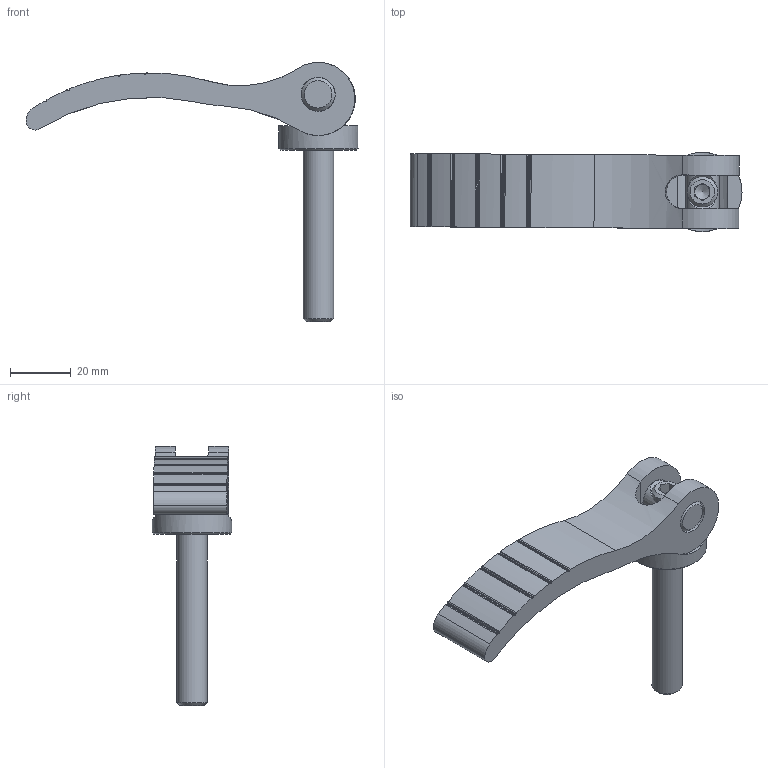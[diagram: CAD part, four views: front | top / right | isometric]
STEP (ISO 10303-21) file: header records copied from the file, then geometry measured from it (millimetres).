
FILE_DESCRIPTION(('STEP AP203'), '1');
FILE_NAME('À00360.111081025 _ Ýêñöåíòðèê 108 ìì', '', ('UNSPECIFIED'), ('UNSPECIFIED'), 'C3D Converter', 'C3D Toolkit', '');
FILE_SCHEMA(('CONFIG_CONTROL_DESIGN'));
Length unit declared in the file: millimetre
Products named in the file (5): А00360.108.03; А00360.108.02; А00360.108.01
Assembly tree (4 placements, depth 2):
  (unnamed)
    А00360.108.03
    А00360.108.02
    А00360.108.01
    (unnamed)
Bounding box: 108.87 x 26 x 84.97 mm (x, y, z)
Volume: 32027.4 mm3; surface area: 13991.6 mm2
Topology: 4 solids, 4 shells, 79 faces, 203 edges, 132 vertices
Faces by surface type: cylinder 38, plane 33, cone 6, bspline 2
Full cylindrical faces by diameter (mm): 8.376 x1, 10 x1, 10.5 x1, 11 x1, 11.2 x2, 26 x1
Entity records: 4407 total; most frequent: CARTESIAN_POINT 2238, DIRECTION 424, ORIENTED_EDGE 370, EDGE_CURVE 185, AXIS2_PLACEMENT_3D 168, VERTEX_POINT 129, EDGE_LOOP 102, LINE 88
